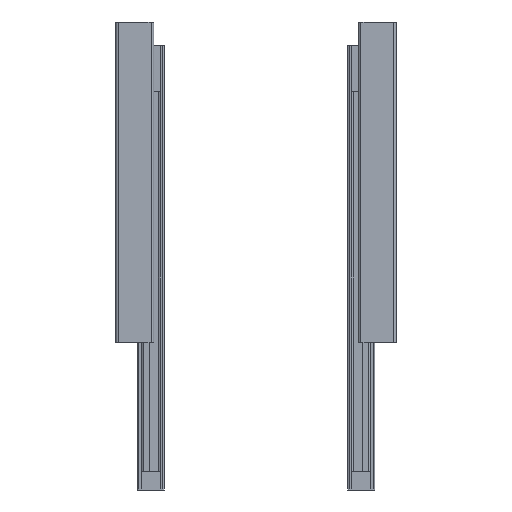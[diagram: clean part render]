
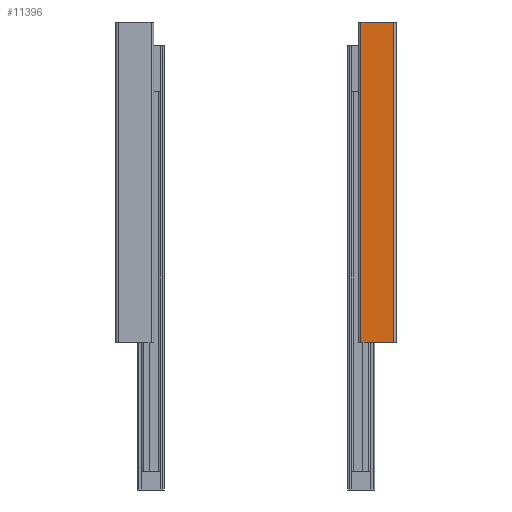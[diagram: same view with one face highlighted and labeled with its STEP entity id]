
A CAD part, front view. The second image highlights one B-rep face of the part: STEP entity #11396.
In plain terms, the highlighted planar face has unit normal (0, -1, 0).
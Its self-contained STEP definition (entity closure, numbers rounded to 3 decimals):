
#483 = FACE_OUTER_BOUND ( 'NONE', #3082, .T. ) ;
#503 = CARTESIAN_POINT ( 'NONE',  ( -2.8, 0., -346. ) ) ;
#626 = CARTESIAN_POINT ( 'NONE',  ( -37.9, 0., -346. ) ) ;
#1583 = CARTESIAN_POINT ( 'NONE',  ( -2.8, 0., -4. ) ) ;
#2073 = ORIENTED_EDGE ( 'NONE', *, *, #13277, .T. ) ;
#2743 = LINE ( 'NONE', #7463, #5350 ) ;
#3082 = EDGE_LOOP ( 'NONE', ( #4101, #9585, #11003, #2073 ) ) ;
#3227 = VECTOR ( 'NONE', #6040, 1000. ) ;
#3688 = LINE ( 'NONE', #8369, #3227 ) ;
#4101 = ORIENTED_EDGE ( 'NONE', *, *, #5586, .T. ) ;
#4240 = CARTESIAN_POINT ( 'NONE',  ( -2.8, 0., -346. ) ) ;
#4304 = LINE ( 'NONE', #12688, #8621 ) ;
#5247 = CARTESIAN_POINT ( 'NONE',  ( -37.9, 0., -4. ) ) ;
#5278 = DIRECTION ( 'NONE',  ( 0., 0., 1. ) ) ;
#5350 = VECTOR ( 'NONE', #13556, 1000. ) ;
#5586 = EDGE_CURVE ( 'NONE', #15162, #9115, #4304, .T. ) ;
#6040 = DIRECTION ( 'NONE',  ( -1., 0., 0. ) ) ;
#6548 = EDGE_CURVE ( 'NONE', #12708, #14682, #3688, .T. ) ;
#7288 = AXIS2_PLACEMENT_3D ( 'NONE', #14550, #9762, #14704 ) ;
#7463 = CARTESIAN_POINT ( 'NONE',  ( -37.9, 0., -346. ) ) ;
#8369 = CARTESIAN_POINT ( 'NONE',  ( -40.7, 0., -346. ) ) ;
#8621 = VECTOR ( 'NONE', #8938, 1000. ) ;
#8938 = DIRECTION ( 'NONE',  ( -1., 0., 0. ) ) ;
#9081 = VECTOR ( 'NONE', #5278, 1000. ) ;
#9115 = VERTEX_POINT ( 'NONE', #5247 ) ;
#9585 = ORIENTED_EDGE ( 'NONE', *, *, #14407, .F. ) ;
#9762 = DIRECTION ( 'NONE',  ( 0., 1., 0. ) ) ;
#9919 = PLANE ( 'NONE',  #7288 ) ;
#11003 = ORIENTED_EDGE ( 'NONE', *, *, #6548, .F. ) ;
#11396 = ADVANCED_FACE ( 'NONE', ( #483 ), #9919, .F. ) ;
#12688 = CARTESIAN_POINT ( 'NONE',  ( -40.7, 0., -4. ) ) ;
#12708 = VERTEX_POINT ( 'NONE', #4240 ) ;
#13277 = EDGE_CURVE ( 'NONE', #12708, #15162, #14572, .T. ) ;
#13556 = DIRECTION ( 'NONE',  ( 0., 0., 1. ) ) ;
#14407 = EDGE_CURVE ( 'NONE', #14682, #9115, #2743, .T. ) ;
#14550 = CARTESIAN_POINT ( 'NONE',  ( -40.7, 0., -346. ) ) ;
#14572 = LINE ( 'NONE', #503, #9081 ) ;
#14682 = VERTEX_POINT ( 'NONE', #626 ) ;
#14704 = DIRECTION ( 'NONE',  ( 0., 0., 1. ) ) ;
#15162 = VERTEX_POINT ( 'NONE', #1583 ) ;
